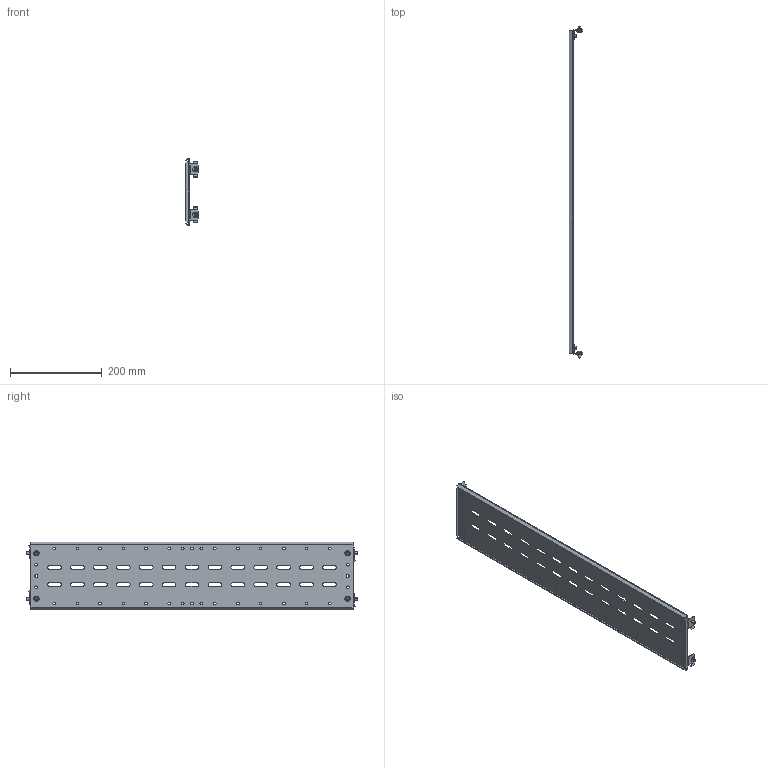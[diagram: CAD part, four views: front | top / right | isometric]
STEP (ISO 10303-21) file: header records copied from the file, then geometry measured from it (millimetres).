
FILE_DESCRIPTION (( 'STEP AP214' ), '1' );
FILE_NAME ('FO-00-SWF-015-080 Ïåðåãîðîäêà ñåêöèîíèðîâàíèÿ çàäíÿÿ 150õ800 ìì.STEP', '2025-08-12T08:59:56', ( '' ), ( '' ), 'SwSTEP 2.0', 'SolidWorks 2023', '' );
FILE_SCHEMA (( 'AUTOMOTIVE_DESIGN' ));
Length unit declared in the file: millimetre
Products named in the file (1): FO-00-SWF-015-080 Перегородка секционирования задняя 150х800 мм
Bounding box: 30.52 x 724 x 147.66 mm (x, y, z)
Volume: 178173.5 mm3; surface area: 235939.9 mm2
Topology: 1 solids, 5 shells, 594 faces, 1624 edges, 1060 vertices
Faces by surface type: cylinder 326, plane 212, torus 24, cone 24, sphere 8
Entity records: 19383 total; most frequent: CARTESIAN_POINT 3547, DIRECTION 3414, ORIENTED_EDGE 3248, EDGE_CURVE 1624, AXIS2_PLACEMENT_3D 1263, VERTEX_POINT 1060, VECTOR 888, LINE 888
